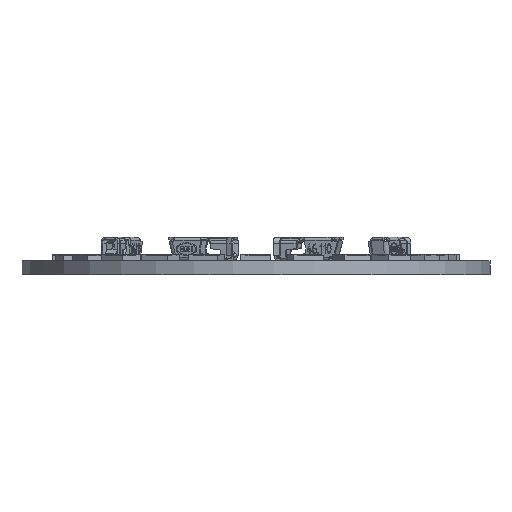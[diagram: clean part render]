
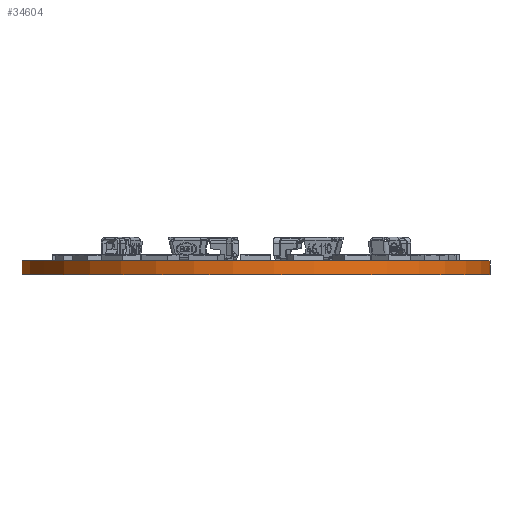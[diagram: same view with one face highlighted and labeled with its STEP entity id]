
A CAD part, left-side view. The second image highlights one B-rep face of the part: STEP entity #34604.
In plain terms, the highlighted cylindrical face has radius 27.1 mm (diameter 54.2 mm), a partial arc.
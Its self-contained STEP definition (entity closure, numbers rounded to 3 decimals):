
#880=CYLINDRICAL_SURFACE('',#36024,27.1);
#1202=CIRCLE('',#35992,27.1);
#1219=CIRCLE('',#36010,27.1);
#1717=ORIENTED_EDGE('',*,*,#9271,.T.);
#1718=ORIENTED_EDGE('',*,*,#9329,.F.);
#1719=ORIENTED_EDGE('',*,*,#9303,.F.);
#1720=ORIENTED_EDGE('',*,*,#9330,.T.);
#9271=EDGE_CURVE('',#13078,#13076,#1202,.T.);
#9303=EDGE_CURVE('',#13109,#13106,#1219,.T.);
#9329=EDGE_CURVE('',#13106,#13076,#15637,.T.);
#9330=EDGE_CURVE('',#13109,#13078,#15638,.T.);
#13076=VERTEX_POINT('',#43936);
#13078=VERTEX_POINT('',#43939);
#13106=VERTEX_POINT('',#43997);
#13109=VERTEX_POINT('',#44002);
#15637=LINE('',#44055,#18369);
#15638=LINE('',#44056,#18370);
#18369=VECTOR('',#37875,1000.);
#18370=VECTOR('',#37876,1000.);
#20971=EDGE_LOOP('',(#1717,#1718,#1719,#1720));
#22489=FACE_BOUND('',#20971,.T.);
#34604=ADVANCED_FACE('',(#22489),#880,.T.);
#35992=AXIS2_PLACEMENT_3D('',#43938,#37782,#37783);
#36010=AXIS2_PLACEMENT_3D('',#44003,#37833,#37834);
#36024=AXIS2_PLACEMENT_3D('',#44054,#37873,#37874);
#37782=DIRECTION('',(0.,0.,-1.));
#37783=DIRECTION('',(0.,1.,0.));
#37833=DIRECTION('',(0.,0.,-1.));
#37834=DIRECTION('',(0.,1.,0.));
#37873=DIRECTION('',(0.,0.,1.));
#37874=DIRECTION('',(1.,0.,0.));
#37875=DIRECTION('',(0.,0.,1.));
#37876=DIRECTION('',(0.,0.,1.));
#43936=CARTESIAN_POINT('',(19.874,-18.424,0.));
#43938=CARTESIAN_POINT('',(0.,0.,0.));
#43939=CARTESIAN_POINT('',(18.424,-19.874,0.));
#43997=CARTESIAN_POINT('',(19.874,-18.424,-1.6));
#44002=CARTESIAN_POINT('',(18.424,-19.874,-1.6));
#44003=CARTESIAN_POINT('',(0.,0.,-1.6));
#44054=CARTESIAN_POINT('',(0.,0.,-1.6));
#44055=CARTESIAN_POINT('',(19.874,-18.424,-1.6));
#44056=CARTESIAN_POINT('',(18.424,-19.874,-1.6));
